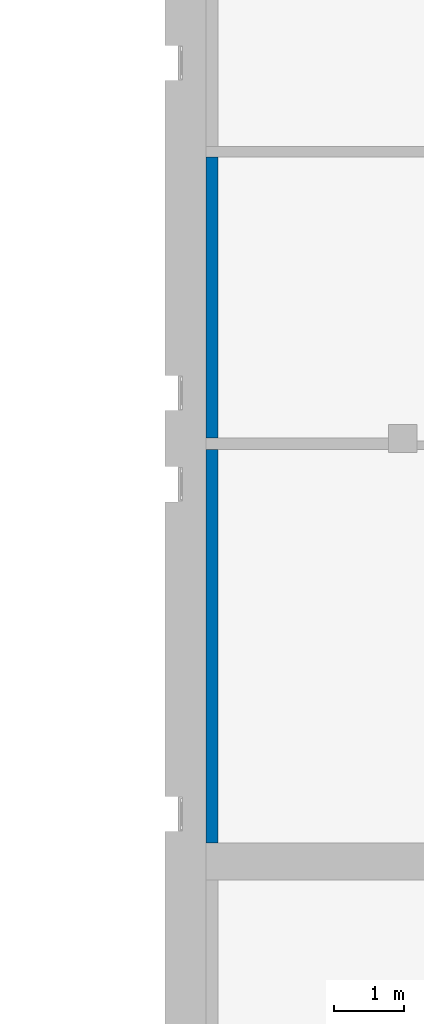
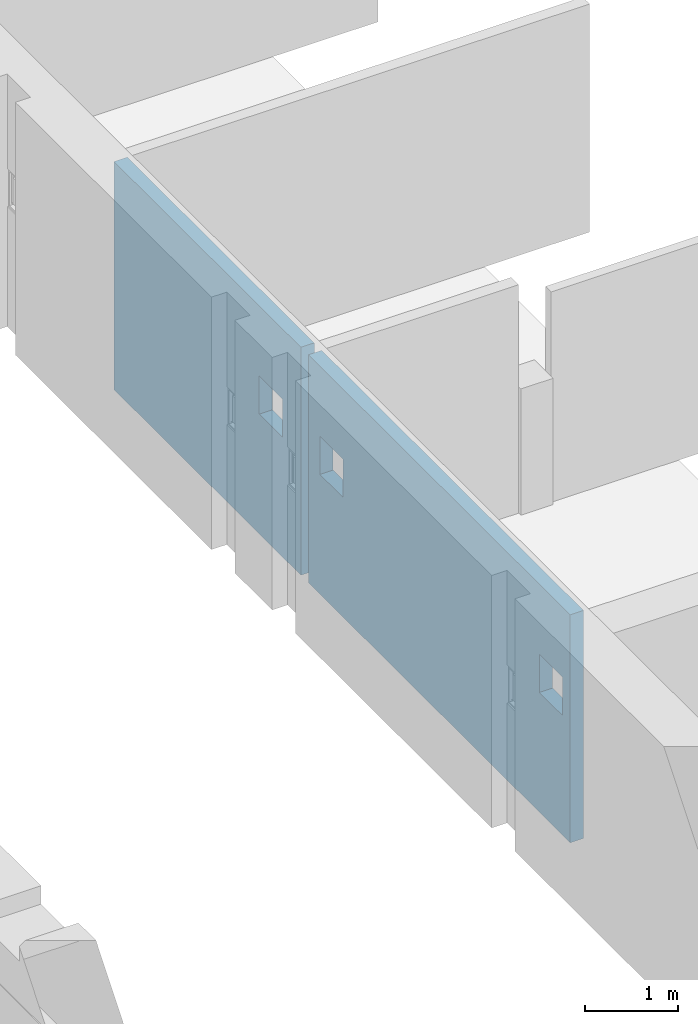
# One storey, part 3 of 11: 2 walls, 30 openings.
"""IFC2X3 building model written with IfcOpenShell, lengths in millimetres."""

from ifc_helpers import new_model, entity, si_unit, converted_unit, derived_unit, direction, frame, frame_2d, origin, origin_2d_with_axis, place, context, subcontext, project, spatial, polyline, circle_curve, parameter, trimmed, segment, composite_curve, rectangle, outline, extrude, material, layer, layer_set, layer_usage, type_object, element, save


model = new_model("IFC2X3")

# Units and contexts
model_context = context("Model", 3, precision=0.01, world=origin(), true_north=direction((6.123031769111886e-17, 1.0)))
body_context = subcontext(model_context, "Body", "Model", "MODEL_VIEW")
ifc_project = project(units=[si_unit("LENGTHUNIT", "METRE", prefix="MILLI"), si_unit("AREAUNIT", "SQUARE_METRE"), si_unit("VOLUMEUNIT", "CUBIC_METRE"), converted_unit("PLANEANGLEUNIT", "DEGREE", entity("IfcPlaneAngleMeasure", 0.017453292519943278), si_unit("PLANEANGLEUNIT", "RADIAN"), dimensions=[0, 0, 0, 0, 0, 0, 0]), si_unit("MASSUNIT", "GRAM", prefix="KILO"), derived_unit("MASSDENSITYUNIT", [(si_unit("MASSUNIT", "GRAM", prefix="KILO"), 1), (si_unit("LENGTHUNIT", "METRE"), -3)]), derived_unit("IONCONCENTRATIONUNIT", [(si_unit("MASSUNIT", "GRAM", prefix="KILO"), 1), (si_unit("LENGTHUNIT", "METRE"), -3)]), derived_unit("MOMENTOFINERTIAUNIT", [(si_unit("LENGTHUNIT", "METRE"), 4)]), si_unit("TIMEUNIT", "SECOND"), si_unit("FREQUENCYUNIT", "HERTZ"), si_unit("THERMODYNAMICTEMPERATUREUNIT", "DEGREE_CELSIUS"), derived_unit("THERMALTRANSMITTANCEUNIT", [(si_unit("MASSUNIT", "GRAM", prefix="KILO"), 1), (si_unit("THERMODYNAMICTEMPERATUREUNIT", "KELVIN"), -1), (si_unit("TIMEUNIT", "SECOND"), -3)]), derived_unit("THERMALCONDUCTANCEUNIT", [(si_unit("MASSUNIT", "GRAM", prefix="KILO"), 1), (si_unit("THERMODYNAMICTEMPERATUREUNIT", "KELVIN"), -1), (si_unit("TIMEUNIT", "SECOND"), -3), (si_unit("LENGTHUNIT", "METRE"), 1)]), derived_unit("VOLUMETRICFLOWRATEUNIT", [(si_unit("LENGTHUNIT", "METRE", prefix="DECI"), 3), (si_unit("TIMEUNIT", "SECOND"), -1)]), derived_unit("MASSFLOWRATEUNIT", [(si_unit("MASSUNIT", "GRAM", prefix="KILO"), 1), (si_unit("TIMEUNIT", "SECOND"), -1)]), derived_unit("ROTATIONALFREQUENCYUNIT", [(si_unit("TIMEUNIT", "SECOND"), -1)]), si_unit("ELECTRICCURRENTUNIT", "AMPERE"), si_unit("ELECTRICVOLTAGEUNIT", "VOLT"), si_unit("POWERUNIT", "WATT"), si_unit("FORCEUNIT", "NEWTON", prefix="KILO"), si_unit("ILLUMINANCEUNIT", "LUX"), si_unit("LUMINOUSFLUXUNIT", "LUMEN"), si_unit("LUMINOUSINTENSITYUNIT", "CANDELA"), si_unit("ENERGYUNIT", "JOULE"), derived_unit("USERDEFINED", [(si_unit("MASSUNIT", "GRAM", prefix="KILO"), -1), (si_unit("LENGTHUNIT", "METRE"), -2), (si_unit("TIMEUNIT", "SECOND"), 3), (si_unit("LUMINOUSFLUXUNIT", "LUMEN"), 1)]), derived_unit("USERDEFINED", [(si_unit("MASSUNIT", "GRAM", prefix="KILO"), 1), (si_unit("TIMEUNIT", "SECOND"), -3), (si_unit("LENGTHUNIT", "METRE"), 3), (si_unit("ELECTRICCURRENTUNIT", "AMPERE"), -2)]), derived_unit("SOUNDPOWERUNIT", [(si_unit("MASSUNIT", "GRAM", prefix="KILO"), 1), (si_unit("TIMEUNIT", "SECOND"), -3), (si_unit("LENGTHUNIT", "METRE"), 2)]), derived_unit("SOUNDPRESSUREUNIT", [(si_unit("MASSUNIT", "GRAM", prefix="KILO"), 1), (si_unit("LENGTHUNIT", "METRE"), -1), (si_unit("TIMEUNIT", "SECOND"), -2)]), derived_unit("LINEARVELOCITYUNIT", [(si_unit("LENGTHUNIT", "METRE"), 1), (si_unit("TIMEUNIT", "SECOND"), -1)]), si_unit("PRESSUREUNIT", "PASCAL"), derived_unit("USERDEFINED", [(si_unit("MASSUNIT", "GRAM", prefix="KILO"), 1), (si_unit("LENGTHUNIT", "METRE"), -2), (si_unit("TIMEUNIT", "SECOND"), -2)]), derived_unit("LINEARFORCEUNIT", [(si_unit("MASSUNIT", "GRAM", prefix="KILO"), 1), (si_unit("TIMEUNIT", "SECOND"), -2)]), derived_unit("PLANARFORCEUNIT", [(si_unit("MASSUNIT", "GRAM", prefix="KILO"), 1), (si_unit("LENGTHUNIT", "METRE"), -1), (si_unit("TIMEUNIT", "SECOND"), -2)]), derived_unit("SPECIFICHEATCAPACITYUNIT", [(si_unit("THERMODYNAMICTEMPERATUREUNIT", "KELVIN"), -1), (si_unit("LENGTHUNIT", "METRE"), 2), (si_unit("TIMEUNIT", "SECOND"), -2)]), derived_unit("HEATFLUXDENSITYUNIT", [(si_unit("MASSUNIT", "GRAM", prefix="KILO"), 1), (si_unit("TIMEUNIT", "SECOND"), -3)]), derived_unit("HEATINGVALUEUNIT", [(si_unit("LENGTHUNIT", "METRE"), 2), (si_unit("TIMEUNIT", "SECOND"), -2)]), derived_unit("VAPORPERMEABILITYUNIT", [(si_unit("LENGTHUNIT", "METRE"), -1), (si_unit("TIMEUNIT", "SECOND"), 1)]), derived_unit("DYNAMICVISCOSITYUNIT", [(si_unit("MASSUNIT", "GRAM", prefix="KILO"), 1), (si_unit("TIMEUNIT", "SECOND"), -1), (si_unit("LENGTHUNIT", "METRE"), -1)]), derived_unit("THERMALEXPANSIONCOEFFICIENTUNIT", [(si_unit("THERMODYNAMICTEMPERATUREUNIT", "KELVIN"), -1)]), derived_unit("MODULUSOFELASTICITYUNIT", [(si_unit("MASSUNIT", "GRAM", prefix="KILO"), 1), (si_unit("LENGTHUNIT", "METRE"), -1), (si_unit("TIMEUNIT", "SECOND"), -2)]), derived_unit("ISOTHERMALMOISTURECAPACITYUNIT", [(si_unit("MASSUNIT", "GRAM", prefix="KILO"), -1), (si_unit("LENGTHUNIT", "METRE"), 3)]), derived_unit("MOISTUREDIFFUSIVITYUNIT", [(si_unit("TIMEUNIT", "SECOND"), -1), (si_unit("LENGTHUNIT", "METRE"), 2)]), derived_unit("MASSPERLENGTHUNIT", [(si_unit("MASSUNIT", "GRAM", prefix="KILO"), 1), (si_unit("LENGTHUNIT", "METRE"), -1)]), derived_unit("THERMALRESISTANCEUNIT", [(si_unit("MASSUNIT", "GRAM", prefix="KILO"), -1), (si_unit("TIMEUNIT", "SECOND"), 3), (si_unit("THERMODYNAMICTEMPERATUREUNIT", "KELVIN"), 1)]), derived_unit("ACCELERATIONUNIT", [(si_unit("LENGTHUNIT", "METRE"), 1), (si_unit("TIMEUNIT", "SECOND"), -2)]), derived_unit("ANGULARVELOCITYUNIT", [(si_unit("TIMEUNIT", "SECOND"), -1), (si_unit("PLANEANGLEUNIT", "RADIAN"), 1)]), derived_unit("LINEARSTIFFNESSUNIT", [(si_unit("MASSUNIT", "GRAM", prefix="KILO"), 1), (si_unit("TIMEUNIT", "SECOND"), -2)]), derived_unit("WARPINGCONSTANTUNIT", [(si_unit("LENGTHUNIT", "METRE"), 6)]), derived_unit("LINEARMOMENTUNIT", [(si_unit("MASSUNIT", "GRAM", prefix="KILO"), 1), (si_unit("LENGTHUNIT", "METRE"), 1), (si_unit("TIMEUNIT", "SECOND"), -2)]), derived_unit("TORQUEUNIT", [(si_unit("MASSUNIT", "GRAM", prefix="KILO"), 1), (si_unit("LENGTHUNIT", "METRE"), 2), (si_unit("TIMEUNIT", "SECOND"), -2)])], contexts=[model_context])

# Site, building, storey
site_placement = place(None, origin())
site = spatial("IfcSite", under=ifc_project, at=site_placement, Name="Default", CompositionType="ELEMENT")
building_placement = place(site_placement, origin())
building = spatial("IfcBuilding", under=site, at=building_placement, Name="Eesti Rahvusraamatukogu hoone renoveerimise projekteerimistööd", CompositionType="ELEMENT")
storey_placement = place(building_placement, frame((0.0, 0.0, -1650.0)))
storey = spatial("IfcBuildingStorey", under=building, at=storey_placement, Name="-1. korrus", CompositionType="ELEMENT", Elevation=-1650.0000000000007)

# Wall, openings
ifc_material_1 = material(Name="EST. Ehitusplaat. Kipsplaat")
ifc_layer_1 = layer(ifc_material_1, 14.0)
ifc_material_2 = material(Name="EST. Ehitusplaat. OSB")
ifc_layer_2 = layer(ifc_material_2, 15.0)
ifc_material_3 = material(Name="EST. Õhkvahe. Roov. Kipsplaadi alusroov. Vertikaalne")
ifc_layer_3 = layer(ifc_material_3, 66.0)
ifc_material_4 = material(Name="EST. Soojustus.PIR. Default")
ifc_layer_4 = layer(ifc_material_4, 70.0)
ifc_layer_set = layer_set([ifc_layer_1, ifc_layer_2, ifc_layer_3, ifc_layer_4], Name="Basic Wall:VS-01 - 165 sooj. mitte läbiv")
ifc_layer_usage_1 = layer_usage(ifc_layer_set, "AXIS2", "NEGATIVE", 82.49999999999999)
wall_type = type_object("IfcWallType", Name="Basic Wall:VS-01 - 165 sooj. mitte läbiv", PredefinedType="STANDARD", material=ifc_layer_set)
wall_1_placement = place(storey_placement, frame((-36107.67342295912, 16400.0, 0.0), z_axis=(0.0, 0.0, 1.0), x_axis=(0.0, -1.0, 0.0)))
wall_1 = element("IfcWallStandardCase", 1, at=wall_1_placement, inside=storey, type_object=wall_type, material=ifc_layer_usage_1, Name="Basic Wall:VS-01 - 165 sooj. mitte läbiv", ObjectType="Basic Wall:VS-01 - 165 sooj. mitte läbiv", context=body_context, shape_type="SweptSolid", body=[
    extrude(rectangle(XDim=4004.0689126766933, YDim=165.00000000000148, at=frame_2d((2002.0344563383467, -1.7550405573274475e-12), x_axis=(-1.0, 0.0))), origin(), (0.0, 0.0, 1.0), 2980.0000000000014),
])
opening_1_placement = place(wall_1_placement, frame((-8408.404727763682, -234.89999999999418, 1420.0)))
element("IfcOpeningElement", 2, at=opening_1_placement, cuts=wall_1, Name="Basic Wall:VS-01 - 165 sooj. mitte läbiv", ObjectType="Opening", context=body_context, shape_type="SweptSolid", body=[
    extrude(outline(composite_curve([segment(polyline([(-530.3896667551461, -1100.0), (529.6103332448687, -1100.0)]), True, "CONTINUOUS"), segment(trimmed(circle_curve(frame_2d((-913.267637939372, 1.0228095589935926), x_axis=(0.0, -1.0)), 1814.9788061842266), [parameter(52.653685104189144)], [parameter(127.26512850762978)], True, "PARAMETER"), True, "CONTINUOUS"), segment(polyline([(531.1690002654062, 1100.0), (-530.3896667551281, 1100.0)]), True, "CONTINUOUS"), segment(polyline([(-530.3896667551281, 1100.0), (-530.3896667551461, -1100.0)]), True, "CONTINUOUS")], self_intersect=False)), frame((-1101.5952722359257, 0.0, 530.3896667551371), z_axis=(0.0, 1.0, 0.0), x_axis=(0.0, 0.0, 1.0)), (0.0, 0.0, 1.0), 469.8000000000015),
])
opening_2_placement = place(wall_1_placement, frame((-11397.039068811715, -234.90000000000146, 1420.0)))
element("IfcOpeningElement", 3, at=opening_2_placement, cuts=wall_1, Name="Basic Wall:VS-01 - 165 sooj. mitte läbiv", ObjectType="Opening", context=body_context, shape_type="SweptSolid", body=[
    extrude(outline(composite_curve([segment(polyline([(-530.3896667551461, -1100.0), (529.6103332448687, -1100.0)]), True, "CONTINUOUS"), segment(trimmed(circle_curve(frame_2d((-913.267637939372, 1.0228095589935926), x_axis=(0.0, -1.0)), 1814.9788061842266), [parameter(52.653685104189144)], [parameter(127.26512850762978)], True, "PARAMETER"), True, "CONTINUOUS"), segment(polyline([(531.1690002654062, 1100.0), (-530.3896667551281, 1100.0)]), True, "CONTINUOUS"), segment(polyline([(-530.3896667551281, 1100.0), (-530.3896667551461, -1100.0)]), True, "CONTINUOUS")], self_intersect=False)), frame((-1101.5952722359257, 0.0, 530.3896667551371), z_axis=(0.0, 1.0, 0.0), x_axis=(0.0, 0.0, 1.0)), (0.0, 0.0, 1.0), 469.8000000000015),
])
opening_3_placement = place(wall_1_placement, frame((16400.0, 36107.67342295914, 1565.0)))
element("IfcOpeningElement", 4, at=opening_3_placement, cuts=wall_1, Name="Basic Wall:VS-01 - 165 sooj. mitte läbiv", ObjectType="Opening", context=body_context, shape_type="SweptSolid", body=[
    extrude(rectangle(XDim=499.9999999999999, YDim=499.999999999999, at=frame_2d((-4.334310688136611e-12, 0.0), x_axis=(0.0, 1.0))), frame((-47740.0, -37714.173422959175, 250.0), z_axis=(0.0, 1.0, 0.0), x_axis=(-1.0, 0.0, 0.0)), (0.0, 0.0, 1.0), 3048.0),
])
opening_4_placement = place(wall_1_placement, frame((16400.0, 36107.67342295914, 1565.0)))
element("IfcOpeningElement", 5, at=opening_4_placement, cuts=wall_1, Name="Basic Wall:VS-01 - 165 sooj. mitte läbiv", ObjectType="Opening", context=body_context, shape_type="SweptSolid", body=[
    extrude(rectangle(XDim=499.9999999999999, YDim=499.999999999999, at=frame_2d((0.0, -4.334310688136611e-12), x_axis=(1.0, 0.0))), frame((-43040.0, -37714.17342295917, 250.0), z_axis=(0.0, 1.0, 0.0), x_axis=(0.0, 0.0, 1.0)), (0.0, 0.0, 1.0), 3048.0),
])
opening_5_placement = place(wall_1_placement, frame((16400.0, 36107.67342295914, 1565.0)))
element("IfcOpeningElement", 6, at=opening_5_placement, cuts=wall_1, Name="Basic Wall:VS-01 - 165 sooj. mitte läbiv", ObjectType="Opening", context=body_context, shape_type="SweptSolid", body=[
    extrude(rectangle(XDim=499.9999999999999, YDim=499.999999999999, at=frame_2d((-4.334310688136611e-12, 0.0), x_axis=(0.0, 1.0))), frame((-41740.0, -37714.17342295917, 250.0), z_axis=(0.0, 1.0, 0.0), x_axis=(-1.0, 0.0, 0.0)), (0.0, 0.0, 1.0), 3048.0),
])
opening_6_placement = place(wall_1_placement, frame((16400.0, 36107.67342295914, 1565.0)))
element("IfcOpeningElement", 7, at=opening_6_placement, cuts=wall_1, Name="Basic Wall:VS-01 - 165 sooj. mitte läbiv", ObjectType="Opening", context=body_context, shape_type="SweptSolid", body=[
    extrude(rectangle(XDim=499.9999999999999, YDim=499.999999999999, at=origin_2d_with_axis()), frame((-37040.0, -37714.17342295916, 250.0), z_axis=(0.0, 1.0, 0.0), x_axis=(0.0, 0.0, 1.0)), (0.0, 0.0, 1.0), 3048.0),
])
opening_7_placement = place(wall_1_placement, frame((16400.0, 36107.67342295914, 1565.0)))
element("IfcOpeningElement", 8, at=opening_7_placement, cuts=wall_1, Name="Basic Wall:VS-01 - 165 sooj. mitte läbiv", ObjectType="Opening", context=body_context, shape_type="SweptSolid", body=[
    extrude(rectangle(XDim=499.9999999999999, YDim=499.999999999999, at=frame_2d((0.0, 0.0), x_axis=(0.0, 1.0))), frame((-35740.0, -37714.17342295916, 250.0), z_axis=(0.0, 1.0, 0.0), x_axis=(-1.0, 0.0, 0.0)), (0.0, 0.0, 1.0), 3048.0),
])
opening_8_placement = place(wall_1_placement, frame((16400.0, 36107.67342295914, 1565.0)))
element("IfcOpeningElement", 9, at=opening_8_placement, cuts=wall_1, Name="Basic Wall:VS-01 - 165 sooj. mitte läbiv", ObjectType="Opening", context=body_context, shape_type="SweptSolid", body=[
    extrude(rectangle(XDim=499.9999999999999, YDim=499.999999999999, at=origin_2d_with_axis()), frame((-31040.0, -37714.17342295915, 250.0), z_axis=(0.0, 1.0, 0.0), x_axis=(0.0, 0.0, 1.0)), (0.0, 0.0, 1.0), 3048.0),
])
opening_9_placement = place(wall_1_placement, frame((16400.0, 36107.67342295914, 1565.0)))
element("IfcOpeningElement", 10, at=opening_9_placement, cuts=wall_1, Name="Basic Wall:VS-01 - 165 sooj. mitte läbiv", ObjectType="Opening", context=body_context, shape_type="SweptSolid", body=[
    extrude(rectangle(XDim=499.9999999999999, YDim=499.999999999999, at=origin_2d_with_axis()), frame((-19040.0, -37714.17342295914, 250.0), z_axis=(0.0, 1.0, 0.0), x_axis=(0.0, 0.0, 1.0)), (0.0, 0.0, 1.0), 3048.0),
])
opening_10_placement = place(wall_1_placement, frame((16400.0, 36107.67342295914, 1565.0)))
element("IfcOpeningElement", 11, at=opening_10_placement, cuts=wall_1, Name="Basic Wall:VS-01 - 165 sooj. mitte läbiv", ObjectType="Opening", context=body_context, shape_type="SweptSolid", body=[
    extrude(rectangle(XDim=499.9999999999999, YDim=500.00000000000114, at=frame_2d((-1.0800249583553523e-12, 0.0), x_axis=(0.0, 1.0))), frame((-17740.0, -37714.17342295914, 250.0), z_axis=(0.0, 1.0, 0.0), x_axis=(-1.0, 0.0, 0.0)), (0.0, 0.0, 1.0), 3048.0),
])
opening_11_placement = place(wall_1_placement, frame((16400.0, 36107.67342295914, 1565.0)))
element("IfcOpeningElement", 12, at=opening_11_placement, cuts=wall_1, Name="Basic Wall:VS-01 - 165 sooj. mitte läbiv", ObjectType="Opening", context=body_context, shape_type="SweptSolid", body=[
    extrude(rectangle(XDim=499.9999999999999, YDim=499.999999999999, at=origin_2d_with_axis()), frame((-13040.0, -37714.17342295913, 250.0), z_axis=(0.0, 1.0, 0.0), x_axis=(0.0, 0.0, 1.0)), (0.0, 0.0, 1.0), 3048.0),
])
opening_12_placement = place(wall_1_placement, frame((16400.0, 36107.67342295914, 1565.0)))
element("IfcOpeningElement", 13, at=opening_12_placement, cuts=wall_1, Name="Basic Wall:VS-01 - 165 sooj. mitte läbiv", ObjectType="Opening", context=body_context, shape_type="SweptSolid", body=[
    extrude(rectangle(XDim=499.9999999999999, YDim=500.00000000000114, at=frame_2d((1.0800249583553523e-12, 0.0), x_axis=(0.0, 1.0))), frame((-11740.0, -37714.17342295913, 250.0), z_axis=(0.0, 1.0, 0.0), x_axis=(-1.0, 0.0, 0.0)), (0.0, 0.0, 1.0), 3048.0),
])
opening_13_placement = place(wall_1_placement, frame((16400.0, 36107.67342295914, 1565.0)))
element("IfcOpeningElement", 14, at=opening_13_placement, cuts=wall_1, Name="Basic Wall:VS-01 - 165 sooj. mitte läbiv", ObjectType="Opening", context=body_context, shape_type="SweptSolid", body=[
    extrude(rectangle(XDim=499.9999999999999, YDim=500.00000000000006, at=frame_2d((0.0, 5.400124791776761e-13), x_axis=(1.0, 0.0))), frame((-7040.0, -37714.173422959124, 250.0), z_axis=(0.0, 1.0, 0.0), x_axis=(0.0, 0.0, 1.0)), (0.0, 0.0, 1.0), 3048.0),
])
opening_14_placement = place(wall_1_placement, frame((16400.0, 36107.67342295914, 1565.0)))
element("IfcOpeningElement", 15, at=opening_14_placement, cuts=wall_1, Name="Basic Wall:VS-01 - 165 sooj. mitte läbiv", ObjectType="Opening", context=body_context, shape_type="SweptSolid", body=[
    extrude(rectangle(XDim=499.9999999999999, YDim=499.999999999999, at=frame_2d((1.4210854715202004e-14, 0.0), x_axis=(1.0, 0.0))), frame((-23740.0, -37714.173422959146, 250.0), z_axis=(0.0, 1.0, 0.0), x_axis=(0.0, 0.0, 1.0)), (0.0, 0.0, 1.0), 3048.0),
])
opening_15_placement = place(wall_1_placement, frame((16400.0, 36107.67342295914, 1650.0)))
element("IfcOpeningElement", 16, at=opening_15_placement, cuts=wall_1, Name="Basic Wall:VS-01 - 165 sooj. mitte läbiv", ObjectType="Opening", context=body_context, shape_type="SweptSolid", body=[
    extrude(rectangle(XDim=3600.000000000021, YDim=499.999999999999, at=origin_2d_with_axis()), frame((-7040.0, -36790.0, 150.0), z_axis=(0.0, 1.0, 0.0), x_axis=(0.0, 0.0, -1.0)), (0.0, 0.0, 1.0), 199.99999999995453),
    extrude(rectangle(XDim=3600.000000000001, YDim=499.999999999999, at=frame_2d((0.0, -4.334310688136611e-12), x_axis=(1.0, 0.0))), frame((-47740.0, -36790.0, 150.0), z_axis=(0.0, 1.0, 0.0), x_axis=(0.0, 0.0, -1.0)), (0.0, 0.0, 1.0), 199.99999999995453),
    extrude(rectangle(XDim=3599.9999999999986, YDim=499.999999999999, at=frame_2d((0.0, -4.334310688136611e-12), x_axis=(1.0, 0.0))), frame((-43040.0, -36790.0, 150.0), z_axis=(0.0, 1.0, 0.0), x_axis=(0.0, 0.0, -1.0)), (0.0, 0.0, 1.0), 199.99999999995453),
    extrude(rectangle(XDim=3600.0000000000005, YDim=499.999999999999, at=frame_2d((2.2737367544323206e-13, -4.334310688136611e-12), x_axis=(1.0, 0.0))), frame((-41740.0, -36790.0, 150.0), z_axis=(0.0, 1.0, 0.0), x_axis=(0.0, 0.0, -1.0)), (0.0, 0.0, 1.0), 199.99999999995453),
    extrude(rectangle(XDim=3599.999999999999, YDim=499.999999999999, at=origin_2d_with_axis()), frame((-37040.0, -36790.0, 150.0), z_axis=(0.0, 1.0, 0.0), x_axis=(0.0, 0.0, -1.0)), (0.0, 0.0, 1.0), 199.99999999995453),
    extrude(rectangle(XDim=3599.999999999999, YDim=499.999999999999, at=origin_2d_with_axis()), frame((-35740.0, -36790.0, 150.0), z_axis=(0.0, 1.0, 0.0), x_axis=(0.0, 0.0, -1.0)), (0.0, 0.0, 1.0), 199.99999999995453),
    extrude(rectangle(XDim=3599.9999999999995, YDim=499.999999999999, at=frame_2d((-2.2737367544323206e-13, 0.0), x_axis=(1.0, 0.0))), frame((-31040.0, -36790.0, 150.0), z_axis=(0.0, 1.0, 0.0), x_axis=(0.0, 0.0, -1.0)), (0.0, 0.0, 1.0), 199.99999999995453),
    extrude(rectangle(XDim=3600.000000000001, YDim=499.999999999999, at=origin_2d_with_axis()), frame((-23740.0, -36790.0, 150.0), z_axis=(0.0, 1.0, 0.0), x_axis=(0.0, 0.0, -1.0)), (0.0, 0.0, 1.0), 199.99999999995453),
    extrude(rectangle(XDim=3600.0000000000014, YDim=500.0000000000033, at=frame_2d((-2.2737367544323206e-13, 2.1600499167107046e-12), x_axis=(1.0, 0.0))), frame((-19040.0, -36790.0, 150.0), z_axis=(0.0, 1.0, 0.0), x_axis=(0.0, 0.0, -1.0)), (0.0, 0.0, 1.0), 199.99999999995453),
    extrude(rectangle(XDim=3600.000000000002, YDim=499.999999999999, at=origin_2d_with_axis()), frame((-17740.0, -36790.0, 150.0), z_axis=(0.0, 1.0, 0.0), x_axis=(0.0, 0.0, -1.0)), (0.0, 0.0, 1.0), 199.99999999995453),
    extrude(rectangle(XDim=3600.0000000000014, YDim=500.0000000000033, at=origin_2d_with_axis()), frame((-13040.0, -36790.0, 150.0), z_axis=(0.0, 1.0, 0.0), x_axis=(0.0, 0.0, -1.0)), (0.0, 0.0, 1.0), 199.99999999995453),
    extrude(rectangle(XDim=3600.0000000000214, YDim=499.999999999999, at=origin_2d_with_axis()), frame((-11740.0, -36790.0, 150.0), z_axis=(0.0, 1.0, 0.0), x_axis=(0.0, 0.0, -1.0)), (0.0, 0.0, 1.0), 199.99999999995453),
])

ifc_layer_usage_2 = layer_usage(ifc_layer_set, "AXIS2", "NEGATIVE", 82.49999999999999)
wall_2_placement = place(storey_placement, frame((-36107.67342295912, 12235.93108732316, 0.0), z_axis=(0.0, 0.0, 1.0), x_axis=(0.0, -1.0, 0.0)))
wall_2 = element("IfcWallStandardCase", 17, at=wall_2_placement, inside=storey, type_object=wall_type, material=ifc_layer_usage_2, Name="Basic Wall:VS-01 - 165 sooj. mitte läbiv", ObjectType="Basic Wall:VS-01 - 165 sooj. mitte läbiv", context=body_context, shape_type="SweptSolid", body=[
    extrude(rectangle(XDim=5605.931087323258, YDim=165.00000000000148, at=frame_2d((2802.965543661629, -1.5205614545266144e-12), x_axis=(-1.0, 0.0))), origin(), (0.0, 0.0, 1.0), 2980.0000000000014),
])
opening_16_placement = place(wall_2_placement, frame((-12572.47364044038, -234.89999999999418, 1420.0)))
element("IfcOpeningElement", 18, at=opening_16_placement, cuts=wall_2, Name="Basic Wall:VS-01 - 165 sooj. mitte läbiv", ObjectType="Opening", context=body_context, shape_type="SweptSolid", body=[
    extrude(outline(composite_curve([segment(polyline([(-530.3896667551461, -1100.0), (529.6103332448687, -1100.0)]), True, "CONTINUOUS"), segment(trimmed(circle_curve(frame_2d((-913.267637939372, 1.02280955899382), x_axis=(0.0, -1.0)), 1814.9788061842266), [parameter(52.653685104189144)], [parameter(127.26512850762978)], True, "PARAMETER"), True, "CONTINUOUS"), segment(polyline([(531.1690002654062, 1100.0), (-530.3896667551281, 1100.0)]), True, "CONTINUOUS"), segment(polyline([(-530.3896667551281, 1100.0), (-530.3896667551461, -1100.0)]), True, "CONTINUOUS")], self_intersect=False)), frame((-1101.5952722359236, 0.0, 530.3896667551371), z_axis=(0.0, 1.0, 0.0), x_axis=(0.0, 0.0, 1.0)), (0.0, 0.0, 1.0), 469.8000000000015),
])
opening_17_placement = place(wall_2_placement, frame((-15561.107981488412, -234.90000000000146, 1420.0)))
element("IfcOpeningElement", 19, at=opening_17_placement, cuts=wall_2, Name="Basic Wall:VS-01 - 165 sooj. mitte läbiv", ObjectType="Opening", context=body_context, shape_type="SweptSolid", body=[
    extrude(outline(composite_curve([segment(polyline([(-530.3896667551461, -1100.0), (529.6103332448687, -1100.0)]), True, "CONTINUOUS"), segment(trimmed(circle_curve(frame_2d((-913.267637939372, 1.02280955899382), x_axis=(0.0, -1.0)), 1814.9788061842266), [parameter(52.653685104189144)], [parameter(127.26512850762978)], True, "PARAMETER"), True, "CONTINUOUS"), segment(polyline([(531.1690002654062, 1100.0), (-530.3896667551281, 1100.0)]), True, "CONTINUOUS"), segment(polyline([(-530.3896667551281, 1100.0), (-530.3896667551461, -1100.0)]), True, "CONTINUOUS")], self_intersect=False)), frame((-1101.5952722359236, 0.0, 530.3896667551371), z_axis=(0.0, 1.0, 0.0), x_axis=(0.0, 0.0, 1.0)), (0.0, 0.0, 1.0), 469.8000000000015),
])
opening_18_placement = place(wall_2_placement, frame((12235.931087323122, 36107.67342295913, 1565.0)))
element("IfcOpeningElement", 20, at=opening_18_placement, cuts=wall_2, Name="Basic Wall:VS-01 - 165 sooj. mitte läbiv", ObjectType="Opening", context=body_context, shape_type="SweptSolid", body=[
    extrude(rectangle(XDim=499.9999999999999, YDim=499.999999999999, at=frame_2d((-4.334310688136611e-12, 0.0), x_axis=(0.0, 1.0))), frame((-47740.0, -37714.17342295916, 250.0), z_axis=(0.0, 1.0, 0.0), x_axis=(-1.0, 0.0, 0.0)), (0.0, 0.0, 1.0), 3048.0),
])
opening_19_placement = place(wall_2_placement, frame((12235.931087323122, 36107.67342295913, 1565.0)))
element("IfcOpeningElement", 21, at=opening_19_placement, cuts=wall_2, Name="Basic Wall:VS-01 - 165 sooj. mitte läbiv", ObjectType="Opening", context=body_context, shape_type="SweptSolid", body=[
    extrude(rectangle(XDim=499.9999999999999, YDim=499.999999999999, at=frame_2d((0.0, -4.334310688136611e-12), x_axis=(1.0, 0.0))), frame((-43040.0, -37714.17342295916, 250.0), z_axis=(0.0, 1.0, 0.0), x_axis=(0.0, 0.0, 1.0)), (0.0, 0.0, 1.0), 3048.0),
])
opening_20_placement = place(wall_2_placement, frame((12235.931087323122, 36107.67342295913, 1565.0)))
element("IfcOpeningElement", 22, at=opening_20_placement, cuts=wall_2, Name="Basic Wall:VS-01 - 165 sooj. mitte läbiv", ObjectType="Opening", context=body_context, shape_type="SweptSolid", body=[
    extrude(rectangle(XDim=499.9999999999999, YDim=499.999999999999, at=frame_2d((-4.334310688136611e-12, 0.0), x_axis=(0.0, 1.0))), frame((-41740.0, -37714.17342295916, 250.0), z_axis=(0.0, 1.0, 0.0), x_axis=(-1.0, 0.0, 0.0)), (0.0, 0.0, 1.0), 3048.0),
])
opening_21_placement = place(wall_2_placement, frame((12235.931087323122, 36107.67342295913, 1565.0)))
element("IfcOpeningElement", 23, at=opening_21_placement, cuts=wall_2, Name="Basic Wall:VS-01 - 165 sooj. mitte läbiv", ObjectType="Opening", context=body_context, shape_type="SweptSolid", body=[
    extrude(rectangle(XDim=499.9999999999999, YDim=499.999999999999, at=origin_2d_with_axis()), frame((-37040.0, -37714.17342295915, 250.0), z_axis=(0.0, 1.0, 0.0), x_axis=(0.0, 0.0, 1.0)), (0.0, 0.0, 1.0), 3048.0),
])
opening_22_placement = place(wall_2_placement, frame((12235.931087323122, 36107.67342295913, 1565.0)))
element("IfcOpeningElement", 24, at=opening_22_placement, cuts=wall_2, Name="Basic Wall:VS-01 - 165 sooj. mitte läbiv", ObjectType="Opening", context=body_context, shape_type="SweptSolid", body=[
    extrude(rectangle(XDim=499.9999999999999, YDim=499.999999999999, at=frame_2d((0.0, 0.0), x_axis=(0.0, 1.0))), frame((-35740.0, -37714.17342295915, 250.0), z_axis=(0.0, 1.0, 0.0), x_axis=(-1.0, 0.0, 0.0)), (0.0, 0.0, 1.0), 3048.0),
])
opening_23_placement = place(wall_2_placement, frame((12235.931087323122, 36107.67342295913, 1565.0)))
element("IfcOpeningElement", 25, at=opening_23_placement, cuts=wall_2, Name="Basic Wall:VS-01 - 165 sooj. mitte läbiv", ObjectType="Opening", context=body_context, shape_type="SweptSolid", body=[
    extrude(rectangle(XDim=499.9999999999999, YDim=499.999999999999, at=origin_2d_with_axis()), frame((-31040.0, -37714.173422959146, 250.0), z_axis=(0.0, 1.0, 0.0), x_axis=(0.0, 0.0, 1.0)), (0.0, 0.0, 1.0), 3048.0),
])
opening_24_placement = place(wall_2_placement, frame((12235.931087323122, 36107.67342295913, 1565.0)))
element("IfcOpeningElement", 26, at=opening_24_placement, cuts=wall_2, Name="Basic Wall:VS-01 - 165 sooj. mitte läbiv", ObjectType="Opening", context=body_context, shape_type="SweptSolid", body=[
    extrude(rectangle(XDim=499.9999999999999, YDim=499.999999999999, at=origin_2d_with_axis()), frame((-19040.0, -37714.17342295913, 250.0), z_axis=(0.0, 1.0, 0.0), x_axis=(0.0, 0.0, 1.0)), (0.0, 0.0, 1.0), 3048.0),
])
opening_25_placement = place(wall_2_placement, frame((12235.931087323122, 36107.67342295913, 1565.0)))
element("IfcOpeningElement", 27, at=opening_25_placement, cuts=wall_2, Name="Basic Wall:VS-01 - 165 sooj. mitte läbiv", ObjectType="Opening", context=body_context, shape_type="SweptSolid", body=[
    extrude(rectangle(XDim=499.9999999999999, YDim=500.00000000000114, at=frame_2d((-1.0800249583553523e-12, 0.0), x_axis=(0.0, 1.0))), frame((-17740.0, -37714.17342295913, 250.0), z_axis=(0.0, 1.0, 0.0), x_axis=(-1.0, 0.0, 0.0)), (0.0, 0.0, 1.0), 3048.0),
])
opening_26_placement = place(wall_2_placement, frame((12235.931087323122, 36107.67342295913, 1565.0)))
element("IfcOpeningElement", 28, at=opening_26_placement, cuts=wall_2, Name="Basic Wall:VS-01 - 165 sooj. mitte läbiv", ObjectType="Opening", context=body_context, shape_type="SweptSolid", body=[
    extrude(rectangle(XDim=499.9999999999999, YDim=499.999999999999, at=origin_2d_with_axis()), frame((-13040.0, -37714.17342295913, 250.0), z_axis=(0.0, 1.0, 0.0), x_axis=(0.0, 0.0, 1.0)), (0.0, 0.0, 1.0), 3048.0),
])
opening_27_placement = place(wall_2_placement, frame((12235.931087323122, 36107.67342295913, 1565.0)))
element("IfcOpeningElement", 29, at=opening_27_placement, cuts=wall_2, Name="Basic Wall:VS-01 - 165 sooj. mitte läbiv", ObjectType="Opening", context=body_context, shape_type="SweptSolid", body=[
    extrude(rectangle(XDim=499.9999999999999, YDim=500.00000000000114, at=frame_2d((1.0800249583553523e-12, 0.0), x_axis=(0.0, 1.0))), frame((-11740.0, -37714.17342295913, 250.0), z_axis=(0.0, 1.0, 0.0), x_axis=(-1.0, 0.0, 0.0)), (0.0, 0.0, 1.0), 3048.0),
])
opening_28_placement = place(wall_2_placement, frame((12235.931087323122, 36107.67342295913, 1565.0)))
element("IfcOpeningElement", 30, at=opening_28_placement, cuts=wall_2, Name="Basic Wall:VS-01 - 165 sooj. mitte läbiv", ObjectType="Opening", context=body_context, shape_type="SweptSolid", body=[
    extrude(rectangle(XDim=499.9999999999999, YDim=500.00000000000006, at=frame_2d((0.0, 5.400124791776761e-13), x_axis=(1.0, 0.0))), frame((-7040.0, -37714.17342295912, 250.0), z_axis=(0.0, 1.0, 0.0), x_axis=(0.0, 0.0, 1.0)), (0.0, 0.0, 1.0), 3048.0),
])
opening_29_placement = place(wall_2_placement, frame((12235.931087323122, 36107.67342295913, 1565.0)))
element("IfcOpeningElement", 31, at=opening_29_placement, cuts=wall_2, Name="Basic Wall:VS-01 - 165 sooj. mitte läbiv", ObjectType="Opening", context=body_context, shape_type="SweptSolid", body=[
    extrude(rectangle(XDim=499.9999999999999, YDim=499.999999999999, at=frame_2d((1.4210854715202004e-14, 0.0), x_axis=(1.0, 0.0))), frame((-23740.0, -37714.17342295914, 250.0), z_axis=(0.0, 1.0, 0.0), x_axis=(0.0, 0.0, 1.0)), (0.0, 0.0, 1.0), 3048.0),
])
opening_30_placement = place(wall_2_placement, frame((12235.931087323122, 36107.67342295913, 1650.0)))
element("IfcOpeningElement", 32, at=opening_30_placement, cuts=wall_2, Name="Basic Wall:VS-01 - 165 sooj. mitte läbiv", ObjectType="Opening", context=body_context, shape_type="SweptSolid", body=[
    extrude(rectangle(XDim=3600.000000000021, YDim=499.999999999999, at=origin_2d_with_axis()), frame((-7040.0, -36790.0, 150.0), z_axis=(0.0, 1.0, 0.0), x_axis=(0.0, 0.0, -1.0)), (0.0, 0.0, 1.0), 199.99999999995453),
    extrude(rectangle(XDim=3600.000000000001, YDim=499.999999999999, at=frame_2d((0.0, -4.334310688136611e-12), x_axis=(1.0, 0.0))), frame((-47740.0, -36790.0, 150.0), z_axis=(0.0, 1.0, 0.0), x_axis=(0.0, 0.0, -1.0)), (0.0, 0.0, 1.0), 199.99999999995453),
    extrude(rectangle(XDim=3599.9999999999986, YDim=499.999999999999, at=frame_2d((0.0, -4.334310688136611e-12), x_axis=(1.0, 0.0))), frame((-43040.0, -36790.0, 150.0), z_axis=(0.0, 1.0, 0.0), x_axis=(0.0, 0.0, -1.0)), (0.0, 0.0, 1.0), 199.99999999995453),
    extrude(rectangle(XDim=3600.0000000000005, YDim=499.999999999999, at=frame_2d((2.2737367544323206e-13, -4.334310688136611e-12), x_axis=(1.0, 0.0))), frame((-41740.0, -36790.0, 150.0), z_axis=(0.0, 1.0, 0.0), x_axis=(0.0, 0.0, -1.0)), (0.0, 0.0, 1.0), 199.99999999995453),
    extrude(rectangle(XDim=3599.999999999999, YDim=499.999999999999, at=origin_2d_with_axis()), frame((-37040.0, -36790.0, 150.0), z_axis=(0.0, 1.0, 0.0), x_axis=(0.0, 0.0, -1.0)), (0.0, 0.0, 1.0), 199.99999999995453),
    extrude(rectangle(XDim=3599.999999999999, YDim=499.999999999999, at=origin_2d_with_axis()), frame((-35740.0, -36790.0, 150.0), z_axis=(0.0, 1.0, 0.0), x_axis=(0.0, 0.0, -1.0)), (0.0, 0.0, 1.0), 199.99999999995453),
    extrude(rectangle(XDim=3599.9999999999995, YDim=499.999999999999, at=frame_2d((-2.2737367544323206e-13, 0.0), x_axis=(1.0, 0.0))), frame((-31040.0, -36790.0, 150.0), z_axis=(0.0, 1.0, 0.0), x_axis=(0.0, 0.0, -1.0)), (0.0, 0.0, 1.0), 199.99999999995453),
    extrude(rectangle(XDim=3600.000000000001, YDim=499.999999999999, at=origin_2d_with_axis()), frame((-23740.0, -36790.0, 150.0), z_axis=(0.0, 1.0, 0.0), x_axis=(0.0, 0.0, -1.0)), (0.0, 0.0, 1.0), 199.99999999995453),
    extrude(rectangle(XDim=3600.0000000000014, YDim=500.0000000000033, at=frame_2d((-2.2737367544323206e-13, 2.1600499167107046e-12), x_axis=(1.0, 0.0))), frame((-19040.0, -36790.0, 150.0), z_axis=(0.0, 1.0, 0.0), x_axis=(0.0, 0.0, -1.0)), (0.0, 0.0, 1.0), 199.99999999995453),
    extrude(rectangle(XDim=3600.000000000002, YDim=499.999999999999, at=origin_2d_with_axis()), frame((-17740.0, -36790.0, 150.0), z_axis=(0.0, 1.0, 0.0), x_axis=(0.0, 0.0, -1.0)), (0.0, 0.0, 1.0), 199.99999999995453),
    extrude(rectangle(XDim=3600.0000000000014, YDim=500.0000000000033, at=origin_2d_with_axis()), frame((-13040.0, -36790.0, 150.0), z_axis=(0.0, 1.0, 0.0), x_axis=(0.0, 0.0, -1.0)), (0.0, 0.0, 1.0), 199.99999999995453),
    extrude(rectangle(XDim=3600.0000000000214, YDim=499.999999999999, at=origin_2d_with_axis()), frame((-11740.0, -36790.0, 150.0), z_axis=(0.0, 1.0, 0.0), x_axis=(0.0, 0.0, -1.0)), (0.0, 0.0, 1.0), 199.99999999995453),
])

save(model, "model.ifc")
